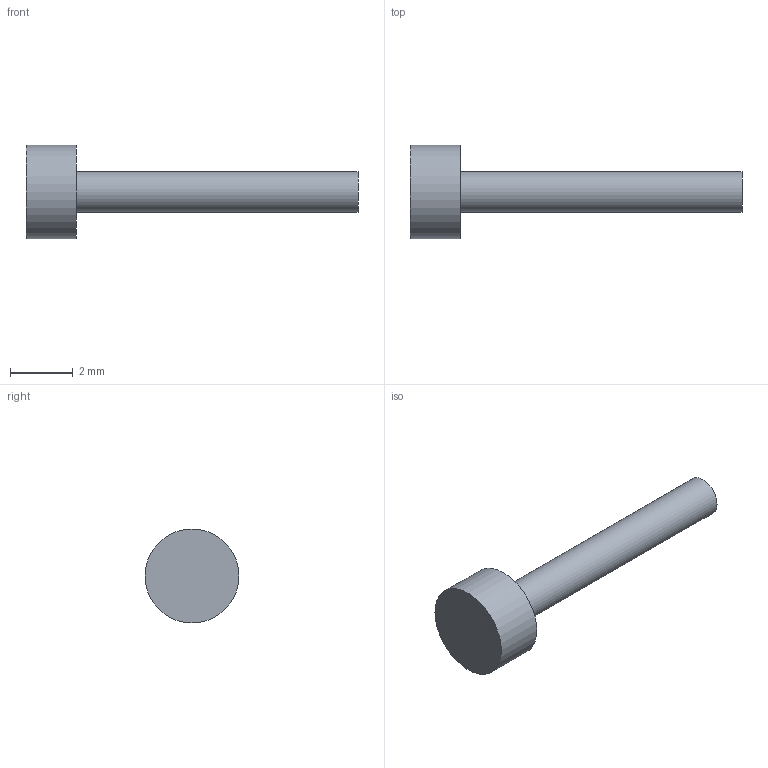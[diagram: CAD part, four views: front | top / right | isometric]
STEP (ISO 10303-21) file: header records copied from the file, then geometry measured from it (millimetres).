
FILE_DESCRIPTION(('Open CASCADE Model'),'2;1');
FILE_NAME('Open CASCADE Shape Model','2026-09-24T17:42:53',('Author'),( 'Open CASCADE'),'Open CASCADE STEP processor 7.8','Open CASCADE 7.8' ,'Unknown');
FILE_SCHEMA(('AUTOMOTIVE_DESIGN { 1 0 10303 214 1 1 1 1 }'));
Length unit declared in the file: millimetre
Products named in the file (1): Open CASCADE STEP translator 7.8 24
Bounding box: 10.6 x 3 x 3 mm (x, y, z)
Volume: 22.9 mm3; surface area: 65.4 mm2
Topology: 1 solids, 1 shells, 5 faces, 6 edges, 4 vertices
Faces by surface type: plane 3, cylinder 2
Full cylindrical faces by diameter (mm): 1.28 x1, 3 x1
Entity records: 192 total; most frequent: DIRECTION 34, CARTESIAN_POINT 28, ORIENTED_EDGE 12, PCURVE 12, DEFINITIONAL_REPRESENTATION 12, AXIS2_PLACEMENT_3D 10, LINE 10, VECTOR 10
